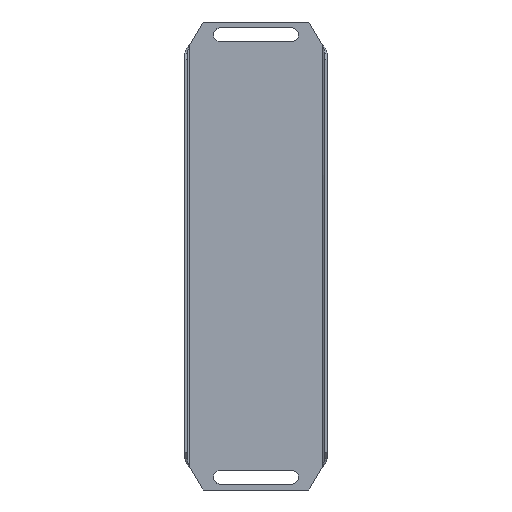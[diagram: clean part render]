
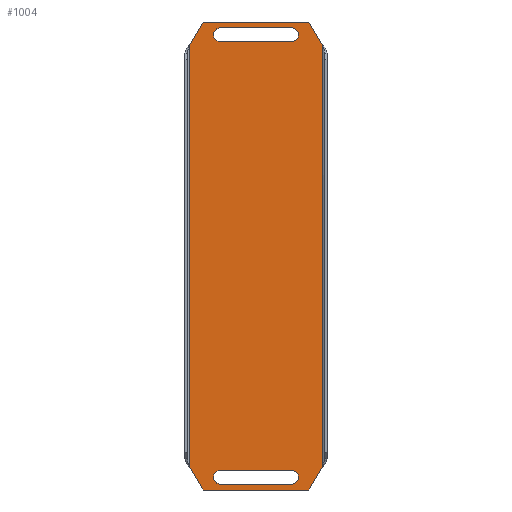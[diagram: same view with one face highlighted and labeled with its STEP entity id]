
A CAD part, front view. The second image highlights one B-rep face of the part: STEP entity #1004.
In plain terms, the highlighted planar face has unit normal (0, -1, 0).
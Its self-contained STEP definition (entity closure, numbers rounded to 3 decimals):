
#4 = DIRECTION ( 'NONE',  ( 0., 0., -1. ) ) ;
#6 = CARTESIAN_POINT ( 'NONE',  ( 32.3, -1.2, -99.781 ) ) ;
#26 = VERTEX_POINT ( 'NONE', #829 ) ;
#31 = CARTESIAN_POINT ( 'NONE',  ( -29.9, -1.2, 99.781 ) ) ;
#38 = VERTEX_POINT ( 'NONE', #31 ) ;
#52 = CARTESIAN_POINT ( 'NONE',  ( 0., -1.2, 0. ) ) ;
#60 = ORIENTED_EDGE ( 'NONE', *, *, #356, .T. ) ;
#68 = CARTESIAN_POINT ( 'NONE',  ( -15.55, -1.2, -101. ) ) ;
#75 = CARTESIAN_POINT ( 'NONE',  ( -29.9, -1.2, -99.781 ) ) ;
#78 = ORIENTED_EDGE ( 'NONE', *, *, #383, .T. ) ;
#82 = ORIENTED_EDGE ( 'NONE', *, *, #621, .F. ) ;
#91 = VECTOR ( 'NONE', #975, 1000. ) ;
#97 = DIRECTION ( 'NONE',  ( 0., 0., 1. ) ) ;
#113 = FACE_OUTER_BOUND ( 'NONE', #1108, .T. ) ;
#133 = CARTESIAN_POINT ( 'NONE',  ( -23.745, -1.2, -110.25 ) ) ;
#134 = VERTEX_POINT ( 'NONE', #741 ) ;
#141 = VECTOR ( 'NONE', #730, 1000. ) ;
#161 = LINE ( 'NONE', #6, #263 ) ;
#165 = DIRECTION ( 'NONE',  ( 0., -1., 0. ) ) ;
#167 = EDGE_CURVE ( 'NONE', #518, #1210, #649, .T. ) ;
#183 = FACE_BOUND ( 'NONE', #549, .T. ) ;
#191 = CARTESIAN_POINT ( 'NONE',  ( -15.55, -1.2, 101. ) ) ;
#194 = CARTESIAN_POINT ( 'NONE',  ( -15.55, -1.2, 107.5 ) ) ;
#197 = ORIENTED_EDGE ( 'NONE', *, *, #1003, .T. ) ;
#202 = CARTESIAN_POINT ( 'NONE',  ( -15.55, -1.2, 107.5 ) ) ;
#211 = VECTOR ( 'NONE', #707, 1000. ) ;
#213 = CARTESIAN_POINT ( 'NONE',  ( 17.95, -1.2, -104.25 ) ) ;
#217 = ORIENTED_EDGE ( 'NONE', *, *, #1049, .F. ) ;
#258 = ORIENTED_EDGE ( 'NONE', *, *, #335, .F. ) ;
#263 = VECTOR ( 'NONE', #870, 1000. ) ;
#298 = VECTOR ( 'NONE', #390, 1000. ) ;
#306 = LINE ( 'NONE', #936, #141 ) ;
#307 = DIRECTION ( 'NONE',  ( 0., 1., 0. ) ) ;
#308 = EDGE_CURVE ( 'NONE', #342, #375, #855, .T. ) ;
#311 = CARTESIAN_POINT ( 'NONE',  ( -29.9, -1.2, -99.781 ) ) ;
#318 = EDGE_CURVE ( 'NONE', #924, #38, #709, .T. ) ;
#320 = AXIS2_PLACEMENT_3D ( 'NONE', #379, #1084, #1074 ) ;
#335 = EDGE_CURVE ( 'NONE', #924, #727, #807, .T. ) ;
#338 = ORIENTED_EDGE ( 'NONE', *, *, #308, .T. ) ;
#342 = VERTEX_POINT ( 'NONE', #191 ) ;
#345 = DIRECTION ( 'NONE',  ( -1., 0., 0. ) ) ;
#356 = EDGE_CURVE ( 'NONE', #1043, #727, #527, .T. ) ;
#361 = CARTESIAN_POINT ( 'NONE',  ( -29.9, -1.2, 99.781 ) ) ;
#365 = VERTEX_POINT ( 'NONE', #489 ) ;
#375 = VERTEX_POINT ( 'NONE', #202 ) ;
#379 = CARTESIAN_POINT ( 'NONE',  ( 17.95, -1.2, 104.25 ) ) ;
#383 = EDGE_CURVE ( 'NONE', #365, #492, #161, .T. ) ;
#384 = DIRECTION ( 'NONE',  ( 0., 0., 1. ) ) ;
#390 = DIRECTION ( 'NONE',  ( 1., 0., 0. ) ) ;
#397 = CARTESIAN_POINT ( 'NONE',  ( 17.95, -1.2, 101. ) ) ;
#410 = VERTEX_POINT ( 'NONE', #794 ) ;
#419 = EDGE_CURVE ( 'NONE', #1065, #518, #681, .T. ) ;
#424 = CARTESIAN_POINT ( 'NONE',  ( -23.745, -1.2, 110.25 ) ) ;
#431 = VECTOR ( 'NONE', #345, 1000. ) ;
#452 = CARTESIAN_POINT ( 'NONE',  ( -15.55, -1.2, 101. ) ) ;
#462 = LINE ( 'NONE', #194, #664 ) ;
#469 = LINE ( 'NONE', #452, #431 ) ;
#489 = CARTESIAN_POINT ( 'NONE',  ( 26.145, -1.2, -110.25 ) ) ;
#490 = ORIENTED_EDGE ( 'NONE', *, *, #167, .T. ) ;
#492 = VERTEX_POINT ( 'NONE', #1180 ) ;
#497 = ORIENTED_EDGE ( 'NONE', *, *, #1063, .T. ) ;
#511 = EDGE_CURVE ( 'NONE', #410, #38, #1018, .T. ) ;
#518 = VERTEX_POINT ( 'NONE', #678 ) ;
#522 = AXIS2_PLACEMENT_3D ( 'NONE', #213, #307, #1113 ) ;
#527 = LINE ( 'NONE', #1279, #618 ) ;
#530 = ORIENTED_EDGE ( 'NONE', *, *, #511, .F. ) ;
#549 = EDGE_LOOP ( 'NONE', ( #338, #959, #1077, #197 ) ) ;
#565 = LINE ( 'NONE', #994, #824 ) ;
#570 = DIRECTION ( 'NONE',  ( -0.507, 0., -0.862 ) ) ;
#574 = DIRECTION ( 'NONE',  ( 0., 1., 0. ) ) ;
#576 = EDGE_CURVE ( 'NONE', #26, #746, #1225, .T. ) ;
#598 = CARTESIAN_POINT ( 'NONE',  ( 26.145, -1.2, 110.25 ) ) ;
#605 = EDGE_CURVE ( 'NONE', #375, #26, #462, .T. ) ;
#618 = VECTOR ( 'NONE', #877, 1000. ) ;
#621 = EDGE_CURVE ( 'NONE', #1043, #492, #565, .T. ) ;
#649 = CIRCLE ( 'NONE', #1219, 3.25 ) ;
#664 = VECTOR ( 'NONE', #887, 1000. ) ;
#678 = CARTESIAN_POINT ( 'NONE',  ( -15.55, -1.2, -107.5 ) ) ;
#681 = LINE ( 'NONE', #983, #91 ) ;
#707 = DIRECTION ( 'NONE',  ( -1., 0., 0. ) ) ;
#709 = LINE ( 'NONE', #361, #892 ) ;
#727 = VERTEX_POINT ( 'NONE', #598 ) ;
#730 = DIRECTION ( 'NONE',  ( 1., 0., 0. ) ) ;
#741 = CARTESIAN_POINT ( 'NONE',  ( 17.95, -1.2, -101. ) ) ;
#745 = ORIENTED_EDGE ( 'NONE', *, *, #419, .T. ) ;
#746 = VERTEX_POINT ( 'NONE', #397 ) ;
#747 = PLANE ( 'NONE',  #1232 ) ;
#754 = EDGE_CURVE ( 'NONE', #134, #1065, #811, .T. ) ;
#794 = CARTESIAN_POINT ( 'NONE',  ( -29.9, -1.2, -99.781 ) ) ;
#807 = LINE ( 'NONE', #989, #298 ) ;
#810 = ORIENTED_EDGE ( 'NONE', *, *, #318, .T. ) ;
#811 = CIRCLE ( 'NONE', #522, 3.25 ) ;
#824 = VECTOR ( 'NONE', #4, 1000. ) ;
#829 = CARTESIAN_POINT ( 'NONE',  ( 17.95, -1.2, 107.5 ) ) ;
#839 = CARTESIAN_POINT ( 'NONE',  ( 32.3, -1.2, 99.781 ) ) ;
#855 = CIRCLE ( 'NONE', #1013, 3.25 ) ;
#870 = DIRECTION ( 'NONE',  ( 0.507, 0., 0.862 ) ) ;
#873 = DIRECTION ( 'NONE',  ( 0., 1., 0. ) ) ;
#877 = DIRECTION ( 'NONE',  ( -0.507, 0., 0.862 ) ) ;
#887 = DIRECTION ( 'NONE',  ( 1., 0., 0. ) ) ;
#892 = VECTOR ( 'NONE', #570, 1000. ) ;
#899 = VERTEX_POINT ( 'NONE', #133 ) ;
#921 = VECTOR ( 'NONE', #384, 1000. ) ;
#923 = CARTESIAN_POINT ( 'NONE',  ( -29.9, -1.2, -110.25 ) ) ;
#924 = VERTEX_POINT ( 'NONE', #424 ) ;
#936 = CARTESIAN_POINT ( 'NONE',  ( -15.55, -1.2, -101. ) ) ;
#944 = DIRECTION ( 'NONE',  ( 0., 0., -1. ) ) ;
#959 = ORIENTED_EDGE ( 'NONE', *, *, #605, .T. ) ;
#969 = CARTESIAN_POINT ( 'NONE',  ( -15.55, -1.2, 104.25 ) ) ;
#975 = DIRECTION ( 'NONE',  ( -1., 0., 0. ) ) ;
#983 = CARTESIAN_POINT ( 'NONE',  ( -15.55, -1.2, -107.5 ) ) ;
#989 = CARTESIAN_POINT ( 'NONE',  ( -29.9, -1.2, 110.25 ) ) ;
#994 = CARTESIAN_POINT ( 'NONE',  ( 32.3, -1.2, 99.781 ) ) ;
#1003 = EDGE_CURVE ( 'NONE', #746, #342, #469, .T. ) ;
#1004 = ADVANCED_FACE ( 'NONE', ( #183, #1010, #113 ), #747, .T. ) ;
#1010 = FACE_BOUND ( 'NONE', #1256, .T. ) ;
#1013 = AXIS2_PLACEMENT_3D ( 'NONE', #969, #873, #97 ) ;
#1014 = VECTOR ( 'NONE', #1121, 1000. ) ;
#1018 = LINE ( 'NONE', #75, #921 ) ;
#1023 = LINE ( 'NONE', #923, #211 ) ;
#1039 = ORIENTED_EDGE ( 'NONE', *, *, #1148, .T. ) ;
#1043 = VERTEX_POINT ( 'NONE', #839 ) ;
#1049 = EDGE_CURVE ( 'NONE', #365, #899, #1023, .T. ) ;
#1063 = EDGE_CURVE ( 'NONE', #410, #899, #1166, .T. ) ;
#1065 = VERTEX_POINT ( 'NONE', #1116 ) ;
#1074 = DIRECTION ( 'NONE',  ( 0., 0., 1. ) ) ;
#1077 = ORIENTED_EDGE ( 'NONE', *, *, #576, .T. ) ;
#1084 = DIRECTION ( 'NONE',  ( 0., 1., 0. ) ) ;
#1088 = ORIENTED_EDGE ( 'NONE', *, *, #754, .T. ) ;
#1108 = EDGE_LOOP ( 'NONE', ( #258, #810, #530, #497, #217, #78, #82, #60 ) ) ;
#1113 = DIRECTION ( 'NONE',  ( 0., 0., 1. ) ) ;
#1116 = CARTESIAN_POINT ( 'NONE',  ( 17.95, -1.2, -107.5 ) ) ;
#1121 = DIRECTION ( 'NONE',  ( 0.507, 0., -0.862 ) ) ;
#1148 = EDGE_CURVE ( 'NONE', #1210, #134, #306, .T. ) ;
#1166 = LINE ( 'NONE', #311, #1014 ) ;
#1168 = DIRECTION ( 'NONE',  ( 0., 0., 1. ) ) ;
#1180 = CARTESIAN_POINT ( 'NONE',  ( 32.3, -1.2, -99.781 ) ) ;
#1210 = VERTEX_POINT ( 'NONE', #68 ) ;
#1219 = AXIS2_PLACEMENT_3D ( 'NONE', #1272, #574, #1168 ) ;
#1225 = CIRCLE ( 'NONE', #320, 3.25 ) ;
#1232 = AXIS2_PLACEMENT_3D ( 'NONE', #52, #165, #944 ) ;
#1256 = EDGE_LOOP ( 'NONE', ( #490, #1039, #1088, #745 ) ) ;
#1272 = CARTESIAN_POINT ( 'NONE',  ( -15.55, -1.2, -104.25 ) ) ;
#1279 = CARTESIAN_POINT ( 'NONE',  ( 32.3, -1.2, 99.781 ) ) ;
